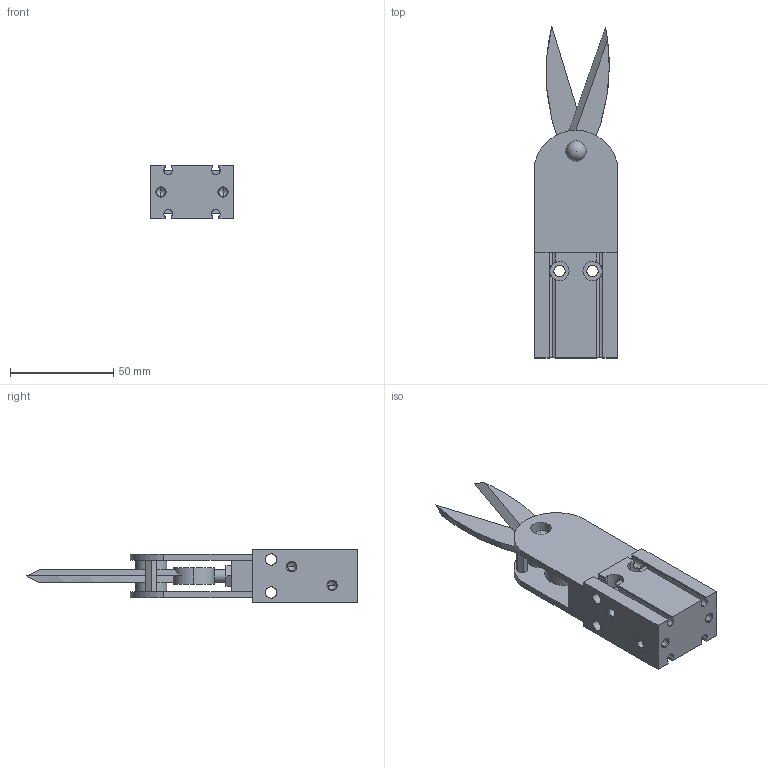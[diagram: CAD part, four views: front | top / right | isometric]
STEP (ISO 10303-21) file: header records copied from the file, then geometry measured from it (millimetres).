
FILE_DESCRIPTION (( 'STEP AP203' ), '1' );
FILE_NAME ('CUT-26D.STEP', '2021-01-19T13:30:31', ( '' ), ( '' ), 'SwSTEP 2.0', 'SolidWorks 2019', '' );
FILE_SCHEMA (( 'CONFIG_CONTROL_DESIGN' ));
Length unit declared in the file: millimetre
Products named in the file (8): l 1; CUT-26D; parte lamina; l 2; lamina; CLM20-5; LAMINA 1; c
Assembly tree (8 placements, depth 3):
  CUT-26D
    c
    CLM20-5
    LAMINA 1
      lamina  x2
    parte lamina
    l 2
    l 1
Bounding box: 40 x 160.44 x 26 mm (x, y, z)
Volume: 73682 mm3; surface area: 36088 mm2
Topology: 10 solids, 10 shells, 217 faces, 548 edges, 344 vertices
Faces by surface type: plane 90, cylinder 80, cone 44, sphere 3
Entity records: 9383 total; most frequent: CARTESIAN_POINT 3532, DIRECTION 1054, ORIENTED_EDGE 1018, EDGE_CURVE 509, AXIS2_PLACEMENT_3D 395, VERTEX_POINT 327, VECTOR 264, LINE 264
